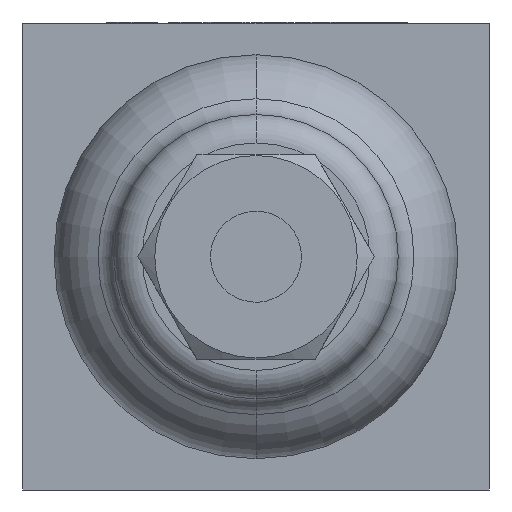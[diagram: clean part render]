
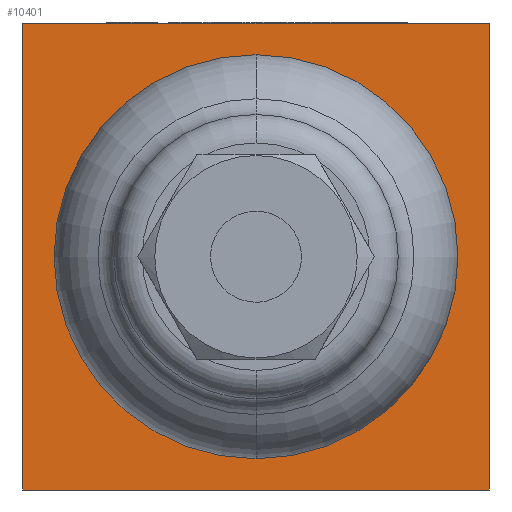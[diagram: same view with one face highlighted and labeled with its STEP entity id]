
A CAD part, front view. The second image highlights one B-rep face of the part: STEP entity #10401.
In plain terms, the highlighted planar face has unit normal (0, -1, 0).
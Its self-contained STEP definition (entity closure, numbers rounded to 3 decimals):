
#72 = CARTESIAN_POINT ( 'NONE',  ( 20.5, -20.5, 20.5 ) ) ;
#1375 = ORIENTED_EDGE ( 'NONE', *, *, #9138, .T. ) ;
#1500 = CARTESIAN_POINT ( 'NONE',  ( -20.5, -20.5, 20.5 ) ) ;
#1603 = LINE ( 'NONE', #12180, #16023 ) ;
#3179 = EDGE_LOOP ( 'NONE', ( #1375, #5108, #14152, #16794 ) ) ;
#3765 = DIRECTION ( 'NONE',  ( 0., 0., -1. ) ) ;
#4259 = VERTEX_POINT ( 'NONE', #17190 ) ;
#4542 = CARTESIAN_POINT ( 'NONE',  ( -20.5, -20.5, 20.5 ) ) ;
#5108 = ORIENTED_EDGE ( 'NONE', *, *, #7327, .F. ) ;
#5397 = VERTEX_POINT ( 'NONE', #15311 ) ;
#7055 = CARTESIAN_POINT ( 'NONE',  ( -20.5, -20.5, 20.5 ) ) ;
#7327 = EDGE_CURVE ( 'NONE', #5397, #7438, #12065, .T. ) ;
#7340 = DIRECTION ( 'NONE',  ( 0., 1., 0. ) ) ;
#7374 = EDGE_CURVE ( 'NONE', #12560, #4259, #9237, .T. ) ;
#7438 = VERTEX_POINT ( 'NONE', #13294 ) ;
#8055 = VECTOR ( 'NONE', #14126, 1000. ) ;
#8224 = DIRECTION ( 'NONE',  ( 0., 0., 1. ) ) ;
#8377 = EDGE_CURVE ( 'NONE', #12560, #5397, #12294, .T. ) ;
#8419 = AXIS2_PLACEMENT_3D ( 'NONE', #11050, #7340, #8224 ) ;
#9138 = EDGE_CURVE ( 'NONE', #4259, #7438, #1603, .T. ) ;
#9237 = LINE ( 'NONE', #1500, #16783 ) ;
#10401 = ADVANCED_FACE ( 'NONE', ( #11933 ), #12488, .F. ) ;
#11050 = CARTESIAN_POINT ( 'NONE',  ( -20.5, -20.5, 20.5 ) ) ;
#11933 = FACE_OUTER_BOUND ( 'NONE', #3179, .T. ) ;
#12065 = LINE ( 'NONE', #72, #8055 ) ;
#12180 = CARTESIAN_POINT ( 'NONE',  ( -20.5, -20.5, -20.5 ) ) ;
#12294 = LINE ( 'NONE', #4542, #16930 ) ;
#12488 = PLANE ( 'NONE',  #8419 ) ;
#12560 = VERTEX_POINT ( 'NONE', #7055 ) ;
#13294 = CARTESIAN_POINT ( 'NONE',  ( 20.5, -20.5, -20.5 ) ) ;
#14126 = DIRECTION ( 'NONE',  ( 0., 0., -1. ) ) ;
#14152 = ORIENTED_EDGE ( 'NONE', *, *, #8377, .F. ) ;
#14622 = DIRECTION ( 'NONE',  ( 1., 0., 0. ) ) ;
#15311 = CARTESIAN_POINT ( 'NONE',  ( 20.5, -20.5, 20.5 ) ) ;
#16023 = VECTOR ( 'NONE', #16757, 1000. ) ;
#16757 = DIRECTION ( 'NONE',  ( 1., 0., 0. ) ) ;
#16783 = VECTOR ( 'NONE', #3765, 1000. ) ;
#16794 = ORIENTED_EDGE ( 'NONE', *, *, #7374, .T. ) ;
#16930 = VECTOR ( 'NONE', #14622, 1000. ) ;
#17190 = CARTESIAN_POINT ( 'NONE',  ( -20.5, -20.5, -20.5 ) ) ;
